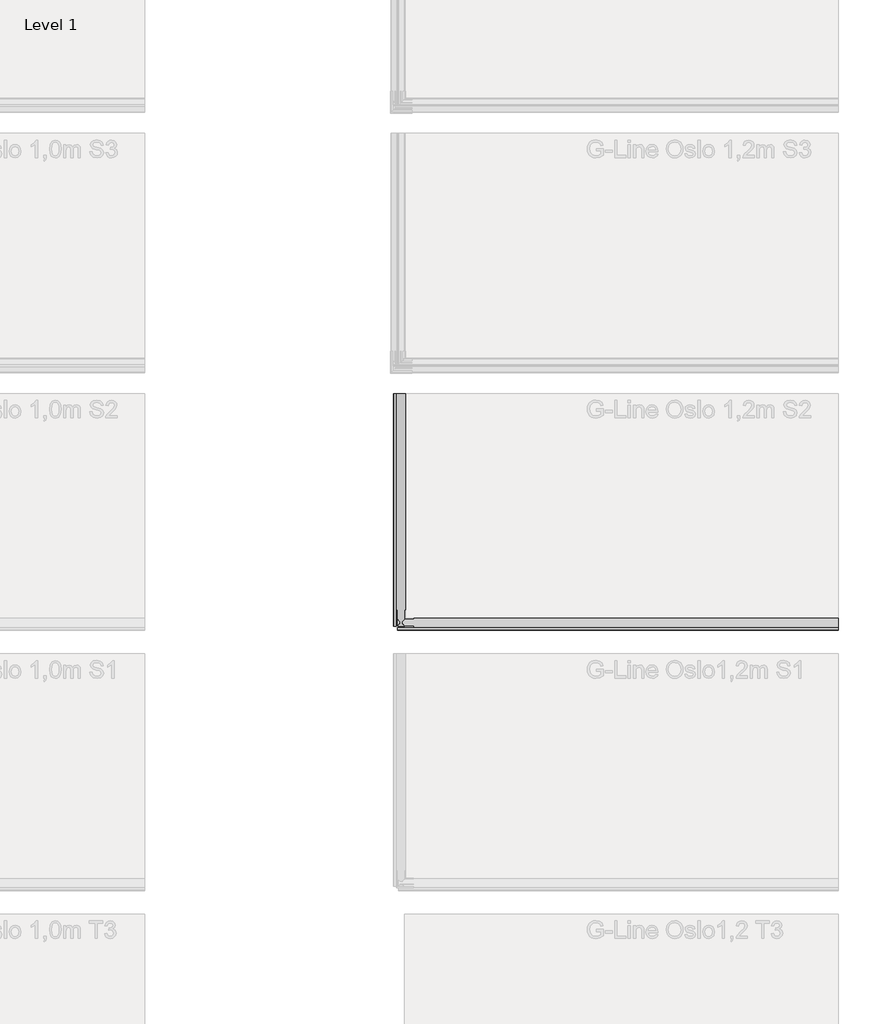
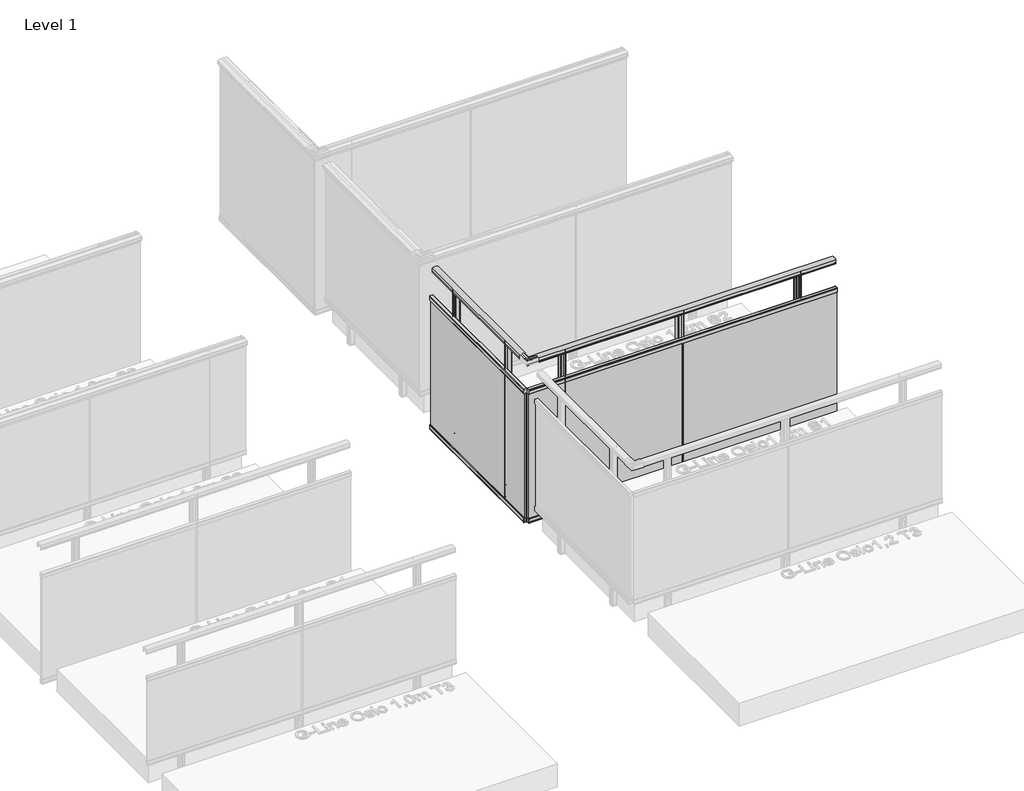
# One storey, part 34 of 66: 2 railings.
"""IFC4 building model written with IfcOpenShell, lengths in millimetres."""

from ifc_helpers import new_model, si_unit, point, frame, frame_2d, origin, place, context, project, spatial, polyline, circle_curve, trimmed, segment, composite_curve, outline, extrude, element, save

model = new_model("IFC4")

# Units and contexts
model_context = context("Model", 3, world=origin())
ifc_project = project(units=[si_unit("LENGTHUNIT", "METRE", prefix="MILLI")], contexts=[model_context])

# Site, building, storey
site = spatial("IfcSite", under=ifc_project)
building = spatial("IfcBuilding", under=site)
storey = spatial("IfcBuildingStorey", under=building, Name="Level 1", Elevation=0.0)

# Railings
placement = place(None, origin())
element("IfcRailing", 1, ObjectType="G-Line Oslo 1,2m  S2", at=placement, inside=storey, context=model_context, shape_type="SweptSolid", body=[
    extrude(outline(composite_curve([segment(trimmed(circle_curve(frame_2d((14109.563828, 1142.6785502)), 57.3235687), [point((14084.3088677, 1194.1390059))], [point((14134.828526, 1194.1342258))], False, "CARTESIAN"), True, "CONTINUOUS"), segment(polyline([(14134.828526, 1194.1342258), (14134.828526, 1167.0235023), (14134.2465942, 1166.4415706), (14134.8686753, 1165.8194895), (14134.8686753, 1157.2498847), (14133.0637224, 1157.2498847), (14133.0637224, 1180.4998829), (14086.0686763, 1180.4998829), (14086.0686763, 1157.2498847), (14084.3088677, 1157.2498847), (14084.3088677, 1165.9694895), (14084.9236507, 1166.5842725), (14084.3088677, 1167.1990555), (14084.3088677, 1194.1390059)]), True, "CONTINUOUS")], self_intersect=False)), frame((8464.0547322, 0.0, 0.0), z_axis=(1.0, 0.0, 0.0), x_axis=(0.0, 1.0, 0.0)), (0.0, 0.0, 1.0), 2540.0),
    extrude(outline(composite_curve([segment(polyline([(14082.0487504, 923.0), (14072.5287505, 923.0), (14065.2886441, 923.0)]), True, "CONTINUOUS"), segment(trimmed(circle_curve(frame_2d((14065.2886441, 923.5)), 0.5), [point((14065.2886441, 923.0))], [point((14064.7886441, 923.5))], False, "CARTESIAN"), True, "CONTINUOUS"), segment(polyline([(14064.7886441, 923.5), (14064.7886441, 951.4642612), (14065.2520415, 952.5008136), (14064.8288365, 953.3802866), (14064.7886441, 958.5)]), True, "CONTINUOUS"), segment(trimmed(circle_curve(frame_2d((14066.2886441, 958.5)), 1.5), [point((14064.7886441, 958.5))], [point((14066.2886441, 960.0))], False, "CARTESIAN"), True, "CONTINUOUS"), segment(polyline([(14066.2886441, 960.0), (14088.2886441, 960.0)]), True, "CONTINUOUS"), segment(trimmed(circle_curve(frame_2d((14088.2886441, 958.5)), 1.5), [point((14088.2886441, 960.0))], [point((14089.7886441, 958.5))], False, "CARTESIAN"), True, "CONTINUOUS"), segment(polyline([(14089.7886441, 958.5), (14089.7886441, 953.5302866), (14089.3252466, 952.5701988), (14089.7484517, 951.6142612), (14089.7484517, 923.6964102)]), True, "CONTINUOUS"), segment(trimmed(circle_curve(frame_2d((14089.2886441, 923.5)), 0.5), [point((14089.7484517, 923.6964102))], [point((14089.2886441, 923.0))], False, "CARTESIAN"), True, "CONTINUOUS"), segment(polyline([(14089.2886441, 923.0), (14082.0487504, 923.0)]), True, "CONTINUOUS")], self_intersect=False)), frame((8464.0547322, 0.0, 0.0), z_axis=(1.0, 0.0, 0.0), x_axis=(0.0, 1.0, 0.0)), (0.0, 0.0, 1.0), 2540.0),
    extrude(outline(polyline([(11004.0547322, 14081.6686441), (11004.0547322, 14072.9086441), (8464.0547322, 14072.9086441), (8464.0547322, 14081.6686441), (11004.0547322, 14081.6686441)])), frame((0.0, 0.0, -200.0), z_axis=(0.0, 0.0, 1.0), x_axis=(1.0, 0.0, 0.0)), (0.0, 0.0, 1.0), 1150.0),
    extrude(outline(composite_curve([segment(polyline([(14072.5285377, -163.0), (14082.0485377, -163.0), (14089.2886441, -163.0)]), True, "CONTINUOUS"), segment(trimmed(circle_curve(frame_2d((14089.2886441, -163.5)), 0.5), [point((14089.2886441, -163.0))], [point((14089.7886441, -163.5))], False, "CARTESIAN"), True, "CONTINUOUS"), segment(polyline([(14089.7886441, -163.5), (14089.7886441, -191.4642612), (14089.3252466, -192.5008136), (14089.7484517, -193.3802866), (14089.7886441, -198.5)]), True, "CONTINUOUS"), segment(trimmed(circle_curve(frame_2d((14088.2886441, -198.5)), 1.5), [point((14089.7886441, -198.5))], [point((14088.2886441, -200.0))], False, "CARTESIAN"), True, "CONTINUOUS"), segment(polyline([(14088.2886441, -200.0), (14066.2886441, -200.0)]), True, "CONTINUOUS"), segment(trimmed(circle_curve(frame_2d((14066.2886441, -198.5)), 1.5), [point((14066.2886441, -200.0))], [point((14064.7886441, -198.5))], False, "CARTESIAN"), True, "CONTINUOUS"), segment(polyline([(14064.7886441, -198.5), (14064.7886441, -193.5302866), (14065.2520415, -192.5701988), (14064.8288365, -191.6142612), (14064.8288365, -163.6964102)]), True, "CONTINUOUS"), segment(trimmed(circle_curve(frame_2d((14065.2886441, -163.5)), 0.5), [point((14064.8288365, -163.6964102))], [point((14065.2886441, -163.0))], False, "CARTESIAN"), True, "CONTINUOUS"), segment(polyline([(14065.2886441, -163.0), (14072.5285377, -163.0)]), True, "CONTINUOUS")], self_intersect=False)), frame((8464.0547322, 0.0, 0.0), z_axis=(1.0, 0.0, 0.0), x_axis=(0.0, 1.0, 0.0)), (0.0, 0.0, 1.0), 2540.0),
    extrude(outline(polyline([(9738.0547322, 14070.2118492), (9730.0547322, 14070.2118492), (9730.0547322, 14078.2118492), (9738.0547322, 14078.2118492), (9738.0547322, 14070.2118492)])), frame((0.0, 0.0, -200.0), z_axis=(0.0, 0.0, 1.0), x_axis=(1.0, 0.0, 0.0)), (0.0, 0.0, 1.0), 1123.0),
    extrude(outline(composite_curve([segment(trimmed(circle_curve(frame_2d((9713.5547322, 14089.7886441)), 2.5), [point((9713.5547322, 14087.2886441))], [point((9711.0547322, 14089.7886441))], False, "CARTESIAN"), True, "CONTINUOUS"), segment(polyline([(9711.0547322, 14089.7886441), (9711.0547322, 14130.7886441)]), True, "CONTINUOUS"), segment(trimmed(circle_curve(frame_2d((9713.5547322, 14130.7886441)), 2.5), [point((9711.0547322, 14130.7886441))], [point((9713.5547322, 14133.2886441))], False, "CARTESIAN"), True, "CONTINUOUS"), segment(polyline([(9713.5547322, 14133.2886441), (9733.1315272, 14133.2886441), (9734.0547322, 14132.365439), (9734.9377449, 14133.2484517), (9754.5547322, 14133.2886441)]), True, "CONTINUOUS"), segment(trimmed(circle_curve(frame_2d((9754.5547322, 14130.7886441)), 2.5), [point((9754.5547322, 14133.2886441))], [point((9757.0547322, 14130.7886441))], False, "CARTESIAN"), True, "CONTINUOUS"), segment(polyline([(9757.0547322, 14130.7886441), (9757.0547322, 14089.7886441)]), True, "CONTINUOUS"), segment(trimmed(circle_curve(frame_2d((9754.5547322, 14089.7886441)), 2.5), [point((9757.0547322, 14089.7886441))], [point((9754.5547322, 14087.2886441))], False, "CARTESIAN"), True, "CONTINUOUS"), segment(polyline([(9754.5547322, 14087.2886441), (9734.9377449, 14087.3288365), (9734.0547322, 14088.2118492), (9733.1717195, 14087.3288365), (9713.5547322, 14087.2886441)]), True, "CONTINUOUS")], self_intersect=False), holes=[composite_curve([segment(trimmed(circle_curve(frame_2d((9752.0547322, 14128.2886441)), 1.0), [point((9753.0547322, 14128.2886441))], [point((9752.0547322, 14129.2886441))], True, "CARTESIAN"), True, "CONTINUOUS"), segment(polyline([(9752.0547322, 14129.2886441), (9716.0547322, 14129.2886441)]), True, "CONTINUOUS"), segment(trimmed(circle_curve(frame_2d((9716.0547322, 14128.2886441)), 1.0), [point((9716.0547322, 14129.2886441))], [point((9715.0547322, 14128.2886441))], True, "CARTESIAN"), True, "CONTINUOUS"), segment(polyline([(9715.0547322, 14128.2886441), (9715.0547322, 14092.2886441)]), True, "CONTINUOUS"), segment(trimmed(circle_curve(frame_2d((9716.0547322, 14092.2886441)), 1.0), [point((9715.0547322, 14092.2886441))], [point((9716.0547322, 14091.2886441))], True, "CARTESIAN"), True, "CONTINUOUS"), segment(polyline([(9716.0547322, 14091.2886441), (9752.0547322, 14091.2886441)]), True, "CONTINUOUS"), segment(trimmed(circle_curve(frame_2d((9752.0547322, 14092.2886441)), 1.0), [point((9752.0547322, 14091.2886441))], [point((9753.0547322, 14092.2886441))], True, "CARTESIAN"), True, "CONTINUOUS"), segment(polyline([(9753.0547322, 14092.2886441), (9753.0547322, 14128.2886441)]), True, "CONTINUOUS")], self_intersect=False)]), frame((0.0, 0.0, -200.0), z_axis=(0.0, 0.0, 1.0), x_axis=(1.0, 0.0, 0.0)), (0.0, 0.0, 1.0), 1381.0),
    extrude(outline(composite_curve([segment(trimmed(circle_curve(frame_2d((0.0, -12.0)), 12.0), [point((0.0, -23.9999999))], [point((0.0, 0.0))], False, "CARTESIAN"), True, "CONTINUOUS"), segment(trimmed(circle_curve(frame_2d((0.0, -12.0)), 12.0), [point((0.0, 0.0))], [point((0.0, -23.9999999))], False, "CARTESIAN"), True, "CONTINUOUS")], self_intersect=False)), frame((9746.0650091, 14084.7534315, -175.0), z_axis=(-0.0004029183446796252, 0.9999999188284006, 0.0), x_axis=(0.0, 0.0, 1.0)), (0.0, 0.0, 1.0), 3.0757477),
    extrude(outline(composite_curve([segment(trimmed(circle_curve(frame_2d((0.0, -12.0)), 12.0), [point((0.0, -23.9999999))], [point((0.0, 0.0))], False, "CARTESIAN"), True, "CONTINUOUS"), segment(trimmed(circle_curve(frame_2d((0.0, -12.0)), 12.0), [point((0.0, 0.0))], [point((0.0, -23.9999999))], False, "CARTESIAN"), True, "CONTINUOUS")], self_intersect=False)), frame((9746.0650091, 14084.7534315, -50.0), z_axis=(-0.0004029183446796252, 0.9999999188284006, 0.0), x_axis=(0.0, 0.0, 1.0)), (0.0, 0.0, 1.0), 3.0757477),
    extrude(outline(composite_curve([segment(polyline([(8763.2519452, 14130.2886441), (8764.0547322, 14129.4858571), (8764.8225694, 14130.2536942), (8781.8808193, 14130.2886441)]), True, "CONTINUOUS"), segment(trimmed(circle_curve(frame_2d((8781.8808192, 14128.114731)), 2.173913), [point((8781.8808193, 14130.2886441))], [point((8784.0547322, 14128.114731))], False, "CARTESIAN"), True, "CONTINUOUS"), segment(polyline([(8784.0547322, 14128.114731), (8784.0547322, 14092.4625571)]), True, "CONTINUOUS"), segment(trimmed(circle_curve(frame_2d((8781.8808192, 14092.4625571)), 2.173913), [point((8784.0547322, 14092.4625571))], [point((8781.8808192, 14090.2886441))], False, "CARTESIAN"), True, "CONTINUOUS"), segment(polyline([(8781.8808192, 14090.2886441), (8764.8225694, 14090.323594), (8764.0547322, 14091.0914311), (8763.2868951, 14090.323594), (8746.2286453, 14090.2886441)]), True, "CONTINUOUS"), segment(trimmed(circle_curve(frame_2d((8746.2286453, 14092.4625571)), 2.173913), [point((8746.2286453, 14090.2886441))], [point((8744.0547322, 14092.4625571))], False, "CARTESIAN"), True, "CONTINUOUS"), segment(polyline([(8744.0547322, 14092.4625571), (8744.0547322, 14128.114731)]), True, "CONTINUOUS"), segment(trimmed(circle_curve(frame_2d((8746.2286453, 14128.114731)), 2.173913), [point((8744.0547322, 14128.114731))], [point((8746.2286453, 14130.2886441))], False, "CARTESIAN"), True, "CONTINUOUS"), segment(polyline([(8746.2286453, 14130.2886441), (8763.2519452, 14130.2886441)]), True, "CONTINUOUS")], self_intersect=False)), frame((0.0, 0.0, -200.0), z_axis=(0.0, 0.0, 1.0), x_axis=(1.0, 0.0, 0.0)), (0.0, 0.0, 1.0), 10.0),
    extrude(outline(composite_curve([segment(trimmed(circle_curve(frame_2d((0.0, -12.0)), 12.0), [point((0.0, -23.9999999))], [point((0.0, 0.0))], False, "CARTESIAN"), True, "CONTINUOUS"), segment(trimmed(circle_curve(frame_2d((0.0, -12.0)), 12.0), [point((0.0, 0.0))], [point((0.0, -23.9999999))], False, "CARTESIAN"), True, "CONTINUOUS")], self_intersect=False)), frame((8776.0650091, 14087.2248149, -151.0), z_axis=(-0.0004029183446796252, 0.9999999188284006, 0.0), x_axis=(0.0, 0.0, 1.0)), (0.0, 0.0, 1.0), 3.0757477),
    extrude(outline(composite_curve([segment(trimmed(circle_curve(frame_2d((0.0, -12.0)), 12.0), [point((0.0, -23.9999999))], [point((0.0, 0.0))], False, "CARTESIAN"), True, "CONTINUOUS"), segment(trimmed(circle_curve(frame_2d((0.0, -12.0)), 12.0), [point((0.0, 0.0))], [point((0.0, -23.9999999))], False, "CARTESIAN"), True, "CONTINUOUS")], self_intersect=False)), frame((8776.0650091, 14087.2248149, -50.0), z_axis=(-0.0004029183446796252, 0.9999999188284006, 0.0), x_axis=(0.0, 0.0, 1.0)), (0.0, 0.0, 1.0), 3.0757477),
    extrude(outline(composite_curve([segment(polyline([(8784.0547322, 14128.114731), (8784.0547322, 14092.4625571)]), True, "CONTINUOUS"), segment(trimmed(circle_curve(frame_2d((8781.8808192, 14092.4625571)), 2.173913), [point((8784.0547322, 14092.4625571))], [point((8781.8808192, 14090.2886441))], False, "CARTESIAN"), True, "CONTINUOUS"), segment(polyline([(8781.8808192, 14090.2886441), (8764.8225694, 14090.323594), (8764.0547322, 14091.0914311), (8763.2868951, 14090.323594), (8746.2286453, 14090.2886441)]), True, "CONTINUOUS"), segment(trimmed(circle_curve(frame_2d((8746.2286453, 14092.4625571)), 2.173913), [point((8746.2286453, 14090.2886441))], [point((8744.0547322, 14092.4625571))], False, "CARTESIAN"), True, "CONTINUOUS"), segment(polyline([(8744.0547322, 14092.4625571), (8744.0547322, 14128.114731)]), True, "CONTINUOUS"), segment(trimmed(circle_curve(frame_2d((8746.2286453, 14128.114731)), 2.173913), [point((8744.0547322, 14128.114731))], [point((8746.2286453, 14130.2886441))], False, "CARTESIAN"), True, "CONTINUOUS"), segment(polyline([(8746.2286453, 14130.2886441), (8763.1564603, 14130.2886441), (8763.9242975, 14129.8856898), (8764.8225694, 14130.2536942), (8781.8808192, 14130.2886441)]), True, "CONTINUOUS"), segment(trimmed(circle_curve(frame_2d((8781.8808192, 14128.114731)), 2.173913), [point((8781.8808192, 14130.2886441))], [point((8784.0547322, 14128.114731))], False, "CARTESIAN"), True, "CONTINUOUS")], self_intersect=False), holes=[composite_curve([segment(trimmed(circle_curve(frame_2d((8779.7069062, 14125.940818)), 0.8695652), [point((8780.5764714, 14125.940818))], [point((8779.7069062, 14126.8103832))], True, "CARTESIAN"), True, "CONTINUOUS"), segment(polyline([(8779.7069062, 14126.8103832), (8748.4025583, 14126.8103832)]), True, "CONTINUOUS"), segment(trimmed(circle_curve(frame_2d((8748.4025583, 14125.940818)), 0.8695652), [point((8748.4025583, 14126.8103832))], [point((8747.5329931, 14125.940818))], True, "CARTESIAN"), True, "CONTINUOUS"), segment(polyline([(8747.5329931, 14125.940818), (8747.5329931, 14094.6364702)]), True, "CONTINUOUS"), segment(trimmed(circle_curve(frame_2d((8748.4025583, 14094.6364702)), 0.8695652), [point((8747.5329931, 14094.6364702))], [point((8748.4025583, 14093.766905))], True, "CARTESIAN"), True, "CONTINUOUS"), segment(polyline([(8748.4025583, 14093.766905), (8779.7069062, 14093.766905)]), True, "CONTINUOUS"), segment(trimmed(circle_curve(frame_2d((8779.7069062, 14094.6364702)), 0.8695652), [point((8779.7069062, 14093.766905))], [point((8780.5764714, 14094.6364702))], True, "CARTESIAN"), True, "CONTINUOUS"), segment(polyline([(8780.5764714, 14094.6364702), (8780.5764714, 14125.940818)]), True, "CONTINUOUS")], self_intersect=False)]), frame((0.0, 0.0, -190.0), z_axis=(0.0, 0.0, 1.0), x_axis=(1.0, 0.0, 0.0)), (0.0, 0.0, 1.0), 1371.0),
    extrude(outline(composite_curve([segment(polyline([(10703.2519452, 14130.2886441), (10704.0547322, 14129.4858571), (10704.8225694, 14130.2536942), (10721.8808193, 14130.2886441)]), True, "CONTINUOUS"), segment(trimmed(circle_curve(frame_2d((10721.8808192, 14128.114731)), 2.173913), [point((10721.8808193, 14130.2886441))], [point((10724.0547322, 14128.114731))], False, "CARTESIAN"), True, "CONTINUOUS"), segment(polyline([(10724.0547322, 14128.114731), (10724.0547322, 14092.4625571)]), True, "CONTINUOUS"), segment(trimmed(circle_curve(frame_2d((10721.8808192, 14092.4625571)), 2.173913), [point((10724.0547322, 14092.4625571))], [point((10721.8808192, 14090.2886441))], False, "CARTESIAN"), True, "CONTINUOUS"), segment(polyline([(10721.8808192, 14090.2886441), (10704.8225694, 14090.323594), (10704.0547322, 14091.0914311), (10703.2868951, 14090.323594), (10686.2286453, 14090.2886441)]), True, "CONTINUOUS"), segment(trimmed(circle_curve(frame_2d((10686.2286453, 14092.4625571)), 2.173913), [point((10686.2286453, 14090.2886441))], [point((10684.0547322, 14092.4625571))], False, "CARTESIAN"), True, "CONTINUOUS"), segment(polyline([(10684.0547322, 14092.4625571), (10684.0547322, 14128.114731)]), True, "CONTINUOUS"), segment(trimmed(circle_curve(frame_2d((10686.2286453, 14128.114731)), 2.173913), [point((10684.0547322, 14128.114731))], [point((10686.2286453, 14130.2886441))], False, "CARTESIAN"), True, "CONTINUOUS"), segment(polyline([(10686.2286453, 14130.2886441), (10703.2519452, 14130.2886441)]), True, "CONTINUOUS")], self_intersect=False)), frame((0.0, 0.0, -200.0), z_axis=(0.0, 0.0, 1.0), x_axis=(1.0, 0.0, 0.0)), (0.0, 0.0, 1.0), 10.0),
    extrude(outline(composite_curve([segment(trimmed(circle_curve(frame_2d((0.0, -12.0)), 12.0), [point((0.0, -23.9999999))], [point((0.0, 0.0))], False, "CARTESIAN"), True, "CONTINUOUS"), segment(trimmed(circle_curve(frame_2d((0.0, -12.0)), 12.0), [point((0.0, 0.0))], [point((0.0, -23.9999999))], False, "CARTESIAN"), True, "CONTINUOUS")], self_intersect=False)), frame((10716.0650091, 14087.2248149, -151.0), z_axis=(-0.0004029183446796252, 0.9999999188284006, 0.0), x_axis=(0.0, 0.0, 1.0)), (0.0, 0.0, 1.0), 3.0757477),
    extrude(outline(composite_curve([segment(trimmed(circle_curve(frame_2d((0.0, -12.0)), 12.0), [point((0.0, -23.9999999))], [point((0.0, 0.0))], False, "CARTESIAN"), True, "CONTINUOUS"), segment(trimmed(circle_curve(frame_2d((0.0, -12.0)), 12.0), [point((0.0, 0.0))], [point((0.0, -23.9999999))], False, "CARTESIAN"), True, "CONTINUOUS")], self_intersect=False)), frame((10716.0650091, 14087.2248149, -50.0), z_axis=(-0.0004029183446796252, 0.9999999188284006, 0.0), x_axis=(0.0, 0.0, 1.0)), (0.0, 0.0, 1.0), 3.0757477),
    extrude(outline(composite_curve([segment(polyline([(10724.0547322, 14128.114731), (10724.0547322, 14092.4625571)]), True, "CONTINUOUS"), segment(trimmed(circle_curve(frame_2d((10721.8808192, 14092.4625571)), 2.173913), [point((10724.0547322, 14092.4625571))], [point((10721.8808192, 14090.2886441))], False, "CARTESIAN"), True, "CONTINUOUS"), segment(polyline([(10721.8808192, 14090.2886441), (10704.8225694, 14090.323594), (10704.0547322, 14091.0914311), (10703.2868951, 14090.323594), (10686.2286453, 14090.2886441)]), True, "CONTINUOUS"), segment(trimmed(circle_curve(frame_2d((10686.2286453, 14092.4625571)), 2.173913), [point((10686.2286453, 14090.2886441))], [point((10684.0547322, 14092.4625571))], False, "CARTESIAN"), True, "CONTINUOUS"), segment(polyline([(10684.0547322, 14092.4625571), (10684.0547322, 14128.114731)]), True, "CONTINUOUS"), segment(trimmed(circle_curve(frame_2d((10686.2286453, 14128.114731)), 2.173913), [point((10684.0547322, 14128.114731))], [point((10686.2286453, 14130.2886441))], False, "CARTESIAN"), True, "CONTINUOUS"), segment(polyline([(10686.2286453, 14130.2886441), (10703.1564603, 14130.2886441), (10703.9242975, 14129.8856898), (10704.8225694, 14130.2536942), (10721.8808192, 14130.2886441)]), True, "CONTINUOUS"), segment(trimmed(circle_curve(frame_2d((10721.8808192, 14128.114731)), 2.173913), [point((10721.8808192, 14130.2886441))], [point((10724.0547322, 14128.114731))], False, "CARTESIAN"), True, "CONTINUOUS")], self_intersect=False), holes=[composite_curve([segment(trimmed(circle_curve(frame_2d((10719.7069062, 14125.940818)), 0.8695652), [point((10720.5764714, 14125.940818))], [point((10719.7069062, 14126.8103832))], True, "CARTESIAN"), True, "CONTINUOUS"), segment(polyline([(10719.7069062, 14126.8103832), (10688.4025583, 14126.8103832)]), True, "CONTINUOUS"), segment(trimmed(circle_curve(frame_2d((10688.4025583, 14125.940818)), 0.8695652), [point((10688.4025583, 14126.8103832))], [point((10687.5329931, 14125.940818))], True, "CARTESIAN"), True, "CONTINUOUS"), segment(polyline([(10687.5329931, 14125.940818), (10687.5329931, 14094.6364702)]), True, "CONTINUOUS"), segment(trimmed(circle_curve(frame_2d((10688.4025583, 14094.6364702)), 0.8695652), [point((10687.5329931, 14094.6364702))], [point((10688.4025583, 14093.766905))], True, "CARTESIAN"), True, "CONTINUOUS"), segment(polyline([(10688.4025583, 14093.766905), (10719.7069062, 14093.766905)]), True, "CONTINUOUS"), segment(trimmed(circle_curve(frame_2d((10719.7069062, 14094.6364702)), 0.8695652), [point((10719.7069062, 14093.766905))], [point((10720.5764714, 14094.6364702))], True, "CARTESIAN"), True, "CONTINUOUS"), segment(polyline([(10720.5764714, 14094.6364702), (10720.5764714, 14125.940818)]), True, "CONTINUOUS")], self_intersect=False)]), frame((0.0, 0.0, -190.0), z_axis=(0.0, 0.0, 1.0), x_axis=(1.0, 0.0, 0.0)), (0.0, 0.0, 1.0), 1371.0),
])
element("IfcRailing", 2, ObjectType="G-Line Oslo 1,2m  S2", at=placement, inside=storey, context=model_context, shape_type="SweptSolid", body=[
    extrude(outline(composite_curve([segment(trimmed(circle_curve(frame_2d((1142.6785502, 8483.339356)), 57.3235687), [point((1194.1390059, 8508.5943162))], [point((1194.1342258, 8458.074658))], False, "CARTESIAN"), True, "CONTINUOUS"), segment(polyline([(1194.1342258, 8458.074658), (1167.0235023, 8458.074658), (1166.4415706, 8458.6565897), (1165.8194895, 8458.0345086), (1157.2498847, 8458.0345086), (1157.2498847, 8459.8394615), (1180.4998829, 8459.8394615), (1180.4998829, 8506.8345077), (1157.2498847, 8506.8345077), (1157.2498847, 8508.5943162), (1165.9694895, 8508.5943162), (1166.5842725, 8507.9795332), (1167.1990555, 8508.5943162), (1194.1390059, 8508.5943162)]), True, "CONTINUOUS")], self_intersect=False)), frame((0.0, 14090.2886441, 0.0), z_axis=(0.0, 1.0, 0.0), x_axis=(0.0, 0.0, 1.0)), (0.0, 0.0, 1.0), 1340.0),
    extrude(outline(composite_curve([segment(polyline([(923.0, 8455.8148386), (923.0, 8463.0547322)]), True, "CONTINUOUS"), segment(trimmed(circle_curve(frame_2d((923.5, 8463.0547322)), 0.5), [point((923.0, 8463.0547322))], [point((923.6964102, 8463.5145399))], False, "CARTESIAN"), True, "CONTINUOUS"), segment(polyline([(923.6964102, 8463.5145399), (951.6142612, 8463.5145399), (952.5701988, 8463.0913348), (953.5302866, 8463.5547322), (958.5, 8463.5547322)]), True, "CONTINUOUS"), segment(trimmed(circle_curve(frame_2d((958.5, 8462.0547322)), 1.5), [point((958.5, 8463.5547322))], [point((960.0, 8462.0547322))], False, "CARTESIAN"), True, "CONTINUOUS"), segment(polyline([(960.0, 8462.0547322), (960.0, 8440.0547322)]), True, "CONTINUOUS"), segment(trimmed(circle_curve(frame_2d((958.5, 8440.0547322)), 1.5), [point((960.0, 8440.0547322))], [point((958.5, 8438.5547322))], False, "CARTESIAN"), True, "CONTINUOUS"), segment(polyline([(958.5, 8438.5547322), (953.3802866, 8438.5949246), (952.5008136, 8439.0181297), (951.4642612, 8438.5547322), (923.5, 8438.5547322)]), True, "CONTINUOUS"), segment(trimmed(circle_curve(frame_2d((923.5, 8439.0547322)), 0.5), [point((923.5, 8438.5547322))], [point((923.0, 8439.0547322))], False, "CARTESIAN"), True, "CONTINUOUS"), segment(polyline([(923.0, 8439.0547322), (923.0, 8446.2948387), (923.0, 8455.8148386)]), True, "CONTINUOUS")], self_intersect=False)), frame((0.0, 14090.2886441, 0.0), z_axis=(0.0, 1.0, 0.0), x_axis=(0.0, 0.0, 1.0)), (0.0, 0.0, 1.0), 1340.0),
    extrude(outline(polyline([(8446.6747322, 15430.2886441), (8455.4347322, 15430.2886441), (8455.4347322, 14090.2886441), (8446.6747322, 14090.2886441), (8446.6747322, 15430.2886441)])), frame((0.0, 0.0, -200.0), z_axis=(0.0, 0.0, 1.0), x_axis=(1.0, 0.0, 0.0)), (0.0, 0.0, 1.0), 1150.0),
    extrude(outline(composite_curve([segment(polyline([(-163.0, 8446.2946259), (-163.0, 8439.0547322)]), True, "CONTINUOUS"), segment(trimmed(circle_curve(frame_2d((-163.5, 8439.0547322)), 0.5), [point((-163.0, 8439.0547322))], [point((-163.6964102, 8438.5949246))], False, "CARTESIAN"), True, "CONTINUOUS"), segment(polyline([(-163.6964102, 8438.5949246), (-191.6142612, 8438.5949246), (-192.5701988, 8439.0181297), (-193.5302866, 8438.5547322), (-198.5, 8438.5547322)]), True, "CONTINUOUS"), segment(trimmed(circle_curve(frame_2d((-198.5, 8440.0547322)), 1.5), [point((-198.5, 8438.5547322))], [point((-200.0, 8440.0547322))], False, "CARTESIAN"), True, "CONTINUOUS"), segment(polyline([(-200.0, 8440.0547322), (-200.0, 8462.0547322)]), True, "CONTINUOUS"), segment(trimmed(circle_curve(frame_2d((-198.5, 8462.0547322)), 1.5), [point((-200.0, 8462.0547322))], [point((-198.5, 8463.5547322))], False, "CARTESIAN"), True, "CONTINUOUS"), segment(polyline([(-198.5, 8463.5547322), (-193.3802866, 8463.5145399), (-192.5008136, 8463.0913348), (-191.4642612, 8463.5547322), (-163.5, 8463.5547322)]), True, "CONTINUOUS"), segment(trimmed(circle_curve(frame_2d((-163.5, 8463.0547322)), 0.5), [point((-163.5, 8463.5547322))], [point((-163.0, 8463.0547322))], False, "CARTESIAN"), True, "CONTINUOUS"), segment(polyline([(-163.0, 8463.0547322), (-163.0, 8455.8146258), (-163.0, 8446.2946259)]), True, "CONTINUOUS")], self_intersect=False)), frame((0.0, 14090.2886441, 0.0), z_axis=(0.0, 1.0, 0.0), x_axis=(0.0, 0.0, 1.0)), (0.0, 0.0, 1.0), 1340.0),
    extrude(outline(composite_curve([segment(polyline([(8504.0547322, 14389.4858571), (8504.0547322, 14372.4625571)]), True, "CONTINUOUS"), segment(trimmed(circle_curve(frame_2d((8501.8808192, 14372.4625571)), 2.173913), [point((8504.0547322, 14372.4625571))], [point((8501.8808192, 14370.2886441))], False, "CARTESIAN"), True, "CONTINUOUS"), segment(polyline([(8501.8808192, 14370.2886441), (8466.2286453, 14370.2886441)]), True, "CONTINUOUS"), segment(trimmed(circle_curve(frame_2d((8466.2286453, 14372.4625571)), 2.173913), [point((8466.2286453, 14370.2886441))], [point((8464.0547322, 14372.4625571))], False, "CARTESIAN"), True, "CONTINUOUS"), segment(polyline([(8464.0547322, 14372.4625571), (8464.0896821, 14389.520807), (8464.8575193, 14390.2886441), (8464.0896821, 14391.0564812), (8464.0547322, 14408.114731)]), True, "CONTINUOUS"), segment(trimmed(circle_curve(frame_2d((8466.2286453, 14408.114731)), 2.173913), [point((8464.0547322, 14408.114731))], [point((8466.2286453, 14410.2886441))], False, "CARTESIAN"), True, "CONTINUOUS"), segment(polyline([(8466.2286453, 14410.2886441), (8501.8808192, 14410.2886441)]), True, "CONTINUOUS"), segment(trimmed(circle_curve(frame_2d((8501.8808192, 14408.114731)), 2.173913), [point((8501.8808192, 14410.2886441))], [point((8504.0547322, 14408.1147311))], False, "CARTESIAN"), True, "CONTINUOUS"), segment(polyline([(8504.0547322, 14408.1147311), (8504.0197823, 14391.0564812), (8503.2519452, 14390.2886441), (8504.0547322, 14389.4858571)]), True, "CONTINUOUS")], self_intersect=False)), frame((0.0, 0.0, -200.0), z_axis=(0.0, 0.0, 1.0), x_axis=(1.0, 0.0, 0.0)), (0.0, 0.0, 1.0), 10.0),
    extrude(outline(composite_curve([segment(trimmed(circle_curve(frame_2d((0.0, 12.0000001)), 12.0), [point((0.0, 24.0))], [point((0.0, 0.0))], False, "CARTESIAN"), True, "CONTINUOUS"), segment(trimmed(circle_curve(frame_2d((0.0, 12.0000001)), 12.0), [point((0.0, 0.0))], [point((0.0, 24.0))], False, "CARTESIAN"), True, "CONTINUOUS")], self_intersect=False)), frame((8464.0666505, 14402.2976817, -151.0), z_axis=(-0.9999999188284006, 0.00040291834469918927, 0.0), x_axis=(0.0, 0.0, -1.0)), (0.0, 0.0, 1.0), 3.0757477),
    extrude(outline(composite_curve([segment(trimmed(circle_curve(frame_2d((0.0, 12.0000001)), 12.0), [point((0.0, 24.0))], [point((0.0, 0.0))], False, "CARTESIAN"), True, "CONTINUOUS"), segment(trimmed(circle_curve(frame_2d((0.0, 12.0000001)), 12.0), [point((0.0, 0.0))], [point((0.0, 24.0))], False, "CARTESIAN"), True, "CONTINUOUS")], self_intersect=False)), frame((8464.0666505, 14402.2976817, -50.0), z_axis=(-0.9999999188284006, 0.00040291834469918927, 0.0), x_axis=(0.0, 0.0, -1.0)), (0.0, 0.0, 1.0), 3.0757477),
    extrude(outline(composite_curve([segment(trimmed(circle_curve(frame_2d((8501.8808192, 14408.114731)), 2.173913), [point((8501.8808192, 14410.2886441))], [point((8504.0547322, 14408.114731))], False, "CARTESIAN"), True, "CONTINUOUS"), segment(polyline([(8504.0547322, 14408.114731), (8504.0197823, 14391.0564812), (8503.6517779, 14390.1582093), (8504.0547322, 14389.3903722), (8504.0547322, 14372.4625571)]), True, "CONTINUOUS"), segment(trimmed(circle_curve(frame_2d((8501.8808192, 14372.4625571)), 2.173913), [point((8504.0547322, 14372.4625571))], [point((8501.8808192, 14370.2886441))], False, "CARTESIAN"), True, "CONTINUOUS"), segment(polyline([(8501.8808192, 14370.2886441), (8466.2286453, 14370.2886441)]), True, "CONTINUOUS"), segment(trimmed(circle_curve(frame_2d((8466.2286453, 14372.4625571)), 2.173913), [point((8466.2286453, 14370.2886441))], [point((8464.0547322, 14372.4625571))], False, "CARTESIAN"), True, "CONTINUOUS"), segment(polyline([(8464.0547322, 14372.4625571), (8464.0896821, 14389.520807), (8464.8575193, 14390.2886441), (8464.0896821, 14391.0564812), (8464.0547322, 14408.114731)]), True, "CONTINUOUS"), segment(trimmed(circle_curve(frame_2d((8466.2286453, 14408.114731)), 2.173913), [point((8464.0547322, 14408.114731))], [point((8466.2286453, 14410.2886441))], False, "CARTESIAN"), True, "CONTINUOUS"), segment(polyline([(8466.2286453, 14410.2886441), (8501.8808192, 14410.2886441)]), True, "CONTINUOUS")], self_intersect=False), holes=[composite_curve([segment(polyline([(8499.7069062, 14406.8103832), (8468.4025583, 14406.8103832)]), True, "CONTINUOUS"), segment(trimmed(circle_curve(frame_2d((8468.4025583, 14405.940818)), 0.8695652), [point((8468.4025583, 14406.8103832))], [point((8467.5329931, 14405.940818))], True, "CARTESIAN"), True, "CONTINUOUS"), segment(polyline([(8467.5329931, 14405.940818), (8467.5329931, 14374.6364702)]), True, "CONTINUOUS"), segment(trimmed(circle_curve(frame_2d((8468.4025583, 14374.6364702)), 0.8695652), [point((8467.5329931, 14374.6364702))], [point((8468.4025583, 14373.766905))], True, "CARTESIAN"), True, "CONTINUOUS"), segment(polyline([(8468.4025583, 14373.766905), (8499.7069062, 14373.766905)]), True, "CONTINUOUS"), segment(trimmed(circle_curve(frame_2d((8499.7069062, 14374.6364702)), 0.8695652), [point((8499.7069062, 14373.766905))], [point((8500.5764714, 14374.6364702))], True, "CARTESIAN"), True, "CONTINUOUS"), segment(polyline([(8500.5764714, 14374.6364702), (8500.5764714, 14405.940818)]), True, "CONTINUOUS"), segment(trimmed(circle_curve(frame_2d((8499.7069062, 14405.940818)), 0.8695652), [point((8500.5764714, 14405.940818))], [point((8499.7069062, 14406.8103832))], True, "CARTESIAN"), True, "CONTINUOUS")], self_intersect=False)]), frame((0.0, 0.0, -190.0), z_axis=(0.0, 0.0, 1.0), x_axis=(1.0, 0.0, 0.0)), (0.0, 0.0, 1.0), 1371.0),
    extrude(outline(composite_curve([segment(polyline([(8504.0547322, 15129.4858571), (8504.0547322, 15112.4625571)]), True, "CONTINUOUS"), segment(trimmed(circle_curve(frame_2d((8501.8808192, 15112.4625571)), 2.173913), [point((8504.0547322, 15112.4625571))], [point((8501.8808192, 15110.2886441))], False, "CARTESIAN"), True, "CONTINUOUS"), segment(polyline([(8501.8808192, 15110.2886441), (8466.2286453, 15110.2886441)]), True, "CONTINUOUS"), segment(trimmed(circle_curve(frame_2d((8466.2286453, 15112.4625571)), 2.173913), [point((8466.2286453, 15110.2886441))], [point((8464.0547322, 15112.4625571))], False, "CARTESIAN"), True, "CONTINUOUS"), segment(polyline([(8464.0547322, 15112.4625571), (8464.0896821, 15129.520807), (8464.8575193, 15130.2886441), (8464.0896821, 15131.0564812), (8464.0547322, 15148.114731)]), True, "CONTINUOUS"), segment(trimmed(circle_curve(frame_2d((8466.2286453, 15148.114731)), 2.173913), [point((8464.0547322, 15148.114731))], [point((8466.2286453, 15150.2886441))], False, "CARTESIAN"), True, "CONTINUOUS"), segment(polyline([(8466.2286453, 15150.2886441), (8501.8808192, 15150.2886441)]), True, "CONTINUOUS"), segment(trimmed(circle_curve(frame_2d((8501.8808192, 15148.114731)), 2.173913), [point((8501.8808192, 15150.2886441))], [point((8504.0547322, 15148.1147311))], False, "CARTESIAN"), True, "CONTINUOUS"), segment(polyline([(8504.0547322, 15148.1147311), (8504.0197823, 15131.0564812), (8503.2519452, 15130.2886441), (8504.0547322, 15129.4858571)]), True, "CONTINUOUS")], self_intersect=False)), frame((0.0, 0.0, -200.0), z_axis=(0.0, 0.0, 1.0), x_axis=(1.0, 0.0, 0.0)), (0.0, 0.0, 1.0), 10.0),
    extrude(outline(composite_curve([segment(trimmed(circle_curve(frame_2d((0.0, 12.0000001)), 12.0), [point((0.0, 24.0))], [point((0.0, 0.0))], False, "CARTESIAN"), True, "CONTINUOUS"), segment(trimmed(circle_curve(frame_2d((0.0, 12.0000001)), 12.0), [point((0.0, 0.0))], [point((0.0, 24.0))], False, "CARTESIAN"), True, "CONTINUOUS")], self_intersect=False)), frame((8464.0666505, 15142.2976817, -151.0), z_axis=(-0.9999999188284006, 0.00040291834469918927, 0.0), x_axis=(0.0, 0.0, -1.0)), (0.0, 0.0, 1.0), 3.0757477),
    extrude(outline(composite_curve([segment(trimmed(circle_curve(frame_2d((0.0, 12.0000001)), 12.0), [point((0.0, 24.0))], [point((0.0, 0.0))], False, "CARTESIAN"), True, "CONTINUOUS"), segment(trimmed(circle_curve(frame_2d((0.0, 12.0000001)), 12.0), [point((0.0, 0.0))], [point((0.0, 24.0))], False, "CARTESIAN"), True, "CONTINUOUS")], self_intersect=False)), frame((8464.0666505, 15142.2976817, -50.0), z_axis=(-0.9999999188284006, 0.00040291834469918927, 0.0), x_axis=(0.0, 0.0, -1.0)), (0.0, 0.0, 1.0), 3.0757477),
    extrude(outline(composite_curve([segment(trimmed(circle_curve(frame_2d((8501.8808192, 15148.114731)), 2.173913), [point((8501.8808192, 15150.2886441))], [point((8504.0547322, 15148.114731))], False, "CARTESIAN"), True, "CONTINUOUS"), segment(polyline([(8504.0547322, 15148.114731), (8504.0197823, 15131.0564812), (8503.6517779, 15130.1582093), (8504.0547322, 15129.3903722), (8504.0547322, 15112.4625571)]), True, "CONTINUOUS"), segment(trimmed(circle_curve(frame_2d((8501.8808192, 15112.4625571)), 2.173913), [point((8504.0547322, 15112.4625571))], [point((8501.8808192, 15110.2886441))], False, "CARTESIAN"), True, "CONTINUOUS"), segment(polyline([(8501.8808192, 15110.2886441), (8466.2286453, 15110.2886441)]), True, "CONTINUOUS"), segment(trimmed(circle_curve(frame_2d((8466.2286453, 15112.4625571)), 2.173913), [point((8466.2286453, 15110.2886441))], [point((8464.0547322, 15112.4625571))], False, "CARTESIAN"), True, "CONTINUOUS"), segment(polyline([(8464.0547322, 15112.4625571), (8464.0896821, 15129.520807), (8464.8575193, 15130.2886441), (8464.0896821, 15131.0564812), (8464.0547322, 15148.114731)]), True, "CONTINUOUS"), segment(trimmed(circle_curve(frame_2d((8466.2286453, 15148.114731)), 2.173913), [point((8464.0547322, 15148.114731))], [point((8466.2286453, 15150.2886441))], False, "CARTESIAN"), True, "CONTINUOUS"), segment(polyline([(8466.2286453, 15150.2886441), (8501.8808192, 15150.2886441)]), True, "CONTINUOUS")], self_intersect=False), holes=[composite_curve([segment(polyline([(8499.7069062, 15146.8103832), (8468.4025583, 15146.8103832)]), True, "CONTINUOUS"), segment(trimmed(circle_curve(frame_2d((8468.4025583, 15145.940818)), 0.8695652), [point((8468.4025583, 15146.8103832))], [point((8467.5329931, 15145.940818))], True, "CARTESIAN"), True, "CONTINUOUS"), segment(polyline([(8467.5329931, 15145.940818), (8467.5329931, 15114.6364702)]), True, "CONTINUOUS"), segment(trimmed(circle_curve(frame_2d((8468.4025583, 15114.6364702)), 0.8695652), [point((8467.5329931, 15114.6364702))], [point((8468.4025583, 15113.766905))], True, "CARTESIAN"), True, "CONTINUOUS"), segment(polyline([(8468.4025583, 15113.766905), (8499.7069062, 15113.766905)]), True, "CONTINUOUS"), segment(trimmed(circle_curve(frame_2d((8499.7069062, 15114.6364702)), 0.8695652), [point((8499.7069062, 15113.766905))], [point((8500.5764714, 15114.6364702))], True, "CARTESIAN"), True, "CONTINUOUS"), segment(polyline([(8500.5764714, 15114.6364702), (8500.5764714, 15145.940818)]), True, "CONTINUOUS"), segment(trimmed(circle_curve(frame_2d((8499.7069062, 15145.940818)), 0.8695652), [point((8500.5764714, 15145.940818))], [point((8499.7069062, 15146.8103832))], True, "CARTESIAN"), True, "CONTINUOUS")], self_intersect=False)]), frame((0.0, 0.0, -190.0), z_axis=(0.0, 0.0, 1.0), x_axis=(1.0, 0.0, 0.0)), (0.0, 0.0, 1.0), 1371.0),
])

save(model, "model.ifc")
